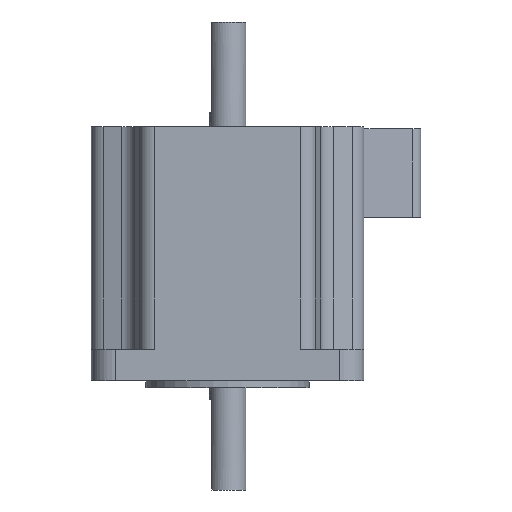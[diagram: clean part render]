
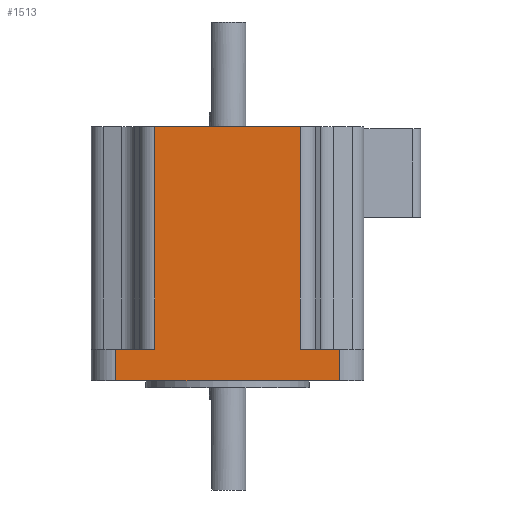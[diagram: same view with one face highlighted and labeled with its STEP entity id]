
A CAD part, left-side view. The second image highlights one B-rep face of the part: STEP entity #1513.
In plain terms, the highlighted planar face has unit normal (-1, 0, 0).
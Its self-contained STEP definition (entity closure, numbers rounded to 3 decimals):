
#11 = ORIENTED_EDGE ( 'NONE', *, *, #1812, .T. ) ;
#24 = ORIENTED_EDGE ( 'NONE', *, *, #1871, .F. ) ;
#35 = LINE ( 'NONE', #621, #2752 ) ;
#43 = VECTOR ( 'NONE', #293, 1000. ) ;
#82 = VECTOR ( 'NONE', #2362, 1000. ) ;
#109 = ORIENTED_EDGE ( 'NONE', *, *, #844, .F. ) ;
#110 = LINE ( 'NONE', #2755, #3107 ) ;
#127 = CARTESIAN_POINT ( 'NONE',  ( -30., 16., 7. ) ) ;
#157 = CARTESIAN_POINT ( 'NONE',  ( -30., -16., 7. ) ) ;
#173 = EDGE_CURVE ( 'NONE', #1239, #1322, #35, .T. ) ;
#293 = DIRECTION ( 'NONE',  ( 0., -1., 0. ) ) ;
#338 = LINE ( 'NONE', #3152, #1065 ) ;
#356 = CARTESIAN_POINT ( 'NONE',  ( -30., 24.6, 0. ) ) ;
#539 = ORIENTED_EDGE ( 'NONE', *, *, #2657, .F. ) ;
#542 = ORIENTED_EDGE ( 'NONE', *, *, #173, .T. ) ;
#600 = DIRECTION ( 'NONE',  ( 0., 0., -1. ) ) ;
#621 = CARTESIAN_POINT ( 'NONE',  ( -30., 24.6, 11. ) ) ;
#688 = ORIENTED_EDGE ( 'NONE', *, *, #1089, .F. ) ;
#844 = EDGE_CURVE ( 'NONE', #1736, #2035, #1533, .T. ) ;
#904 = AXIS2_PLACEMENT_3D ( 'NONE', #1463, #1712, #1950 ) ;
#942 = VERTEX_POINT ( 'NONE', #127 ) ;
#1033 = EDGE_CURVE ( 'NONE', #2228, #1736, #2426, .T. ) ;
#1065 = VECTOR ( 'NONE', #1885, 1000. ) ;
#1089 = EDGE_CURVE ( 'NONE', #2035, #2535, #1839, .T. ) ;
#1200 = DIRECTION ( 'NONE',  ( 0., -1., 0. ) ) ;
#1216 = DIRECTION ( 'NONE',  ( 0., -1., 0. ) ) ;
#1239 = VERTEX_POINT ( 'NONE', #1849 ) ;
#1303 = CARTESIAN_POINT ( 'NONE',  ( -30., 400000., 7. ) ) ;
#1309 = EDGE_LOOP ( 'NONE', ( #109, #2630, #2495, #24, #542, #539, #11, #688 ) ) ;
#1322 = VERTEX_POINT ( 'NONE', #356 ) ;
#1396 = EDGE_CURVE ( 'NONE', #2228, #942, #1640, .T. ) ;
#1401 = VECTOR ( 'NONE', #1200, 1000. ) ;
#1463 = CARTESIAN_POINT ( 'NONE',  ( -30., 30., 45. ) ) ;
#1502 = LINE ( 'NONE', #1702, #2236 ) ;
#1513 = ADVANCED_FACE ( 'NONE', ( #1602 ), #2461, .F. ) ;
#1528 = CARTESIAN_POINT ( 'NONE',  ( -30., -16., 56. ) ) ;
#1533 = LINE ( 'NONE', #3135, #82 ) ;
#1602 = FACE_OUTER_BOUND ( 'NONE', #1309, .T. ) ;
#1640 = LINE ( 'NONE', #3021, #2905 ) ;
#1702 = CARTESIAN_POINT ( 'NONE',  ( -30., -291567., 7. ) ) ;
#1712 = DIRECTION ( 'NONE',  ( 1., 0., 0. ) ) ;
#1736 = VERTEX_POINT ( 'NONE', #1528 ) ;
#1812 = EDGE_CURVE ( 'NONE', #2656, #2535, #338, .T. ) ;
#1813 = CARTESIAN_POINT ( 'NONE',  ( -30., 16., 56. ) ) ;
#1839 = LINE ( 'NONE', #1303, #43 ) ;
#1849 = CARTESIAN_POINT ( 'NONE',  ( -30., 24.6, 7. ) ) ;
#1871 = EDGE_CURVE ( 'NONE', #1239, #942, #1502, .T. ) ;
#1885 = DIRECTION ( 'NONE',  ( 0., 0., 1. ) ) ;
#1950 = DIRECTION ( 'NONE',  ( 0., 0., -1. ) ) ;
#2035 = VERTEX_POINT ( 'NONE', #157 ) ;
#2223 = CARTESIAN_POINT ( 'NONE',  ( -30., -24.6, 0. ) ) ;
#2228 = VERTEX_POINT ( 'NONE', #1813 ) ;
#2236 = VECTOR ( 'NONE', #1216, 1000. ) ;
#2362 = DIRECTION ( 'NONE',  ( 0., 0., -1. ) ) ;
#2426 = LINE ( 'NONE', #2438, #1401 ) ;
#2438 = CARTESIAN_POINT ( 'NONE',  ( -30., -30., 56. ) ) ;
#2461 = PLANE ( 'NONE',  #904 ) ;
#2495 = ORIENTED_EDGE ( 'NONE', *, *, #1396, .T. ) ;
#2497 = DIRECTION ( 'NONE',  ( 0., 1., 0. ) ) ;
#2535 = VERTEX_POINT ( 'NONE', #2700 ) ;
#2630 = ORIENTED_EDGE ( 'NONE', *, *, #1033, .F. ) ;
#2656 = VERTEX_POINT ( 'NONE', #2223 ) ;
#2657 = EDGE_CURVE ( 'NONE', #2656, #1322, #110, .T. ) ;
#2700 = CARTESIAN_POINT ( 'NONE',  ( -30., -24.6, 7. ) ) ;
#2752 = VECTOR ( 'NONE', #2855, 1000. ) ;
#2755 = CARTESIAN_POINT ( 'NONE',  ( -30., -30., 0. ) ) ;
#2855 = DIRECTION ( 'NONE',  ( 0., 0., -1. ) ) ;
#2905 = VECTOR ( 'NONE', #600, 1000. ) ;
#3021 = CARTESIAN_POINT ( 'NONE',  ( -30., 16., 56. ) ) ;
#3107 = VECTOR ( 'NONE', #2497, 1000. ) ;
#3135 = CARTESIAN_POINT ( 'NONE',  ( -30., -16., 56. ) ) ;
#3152 = CARTESIAN_POINT ( 'NONE',  ( -30., -24.6, 11. ) ) ;
